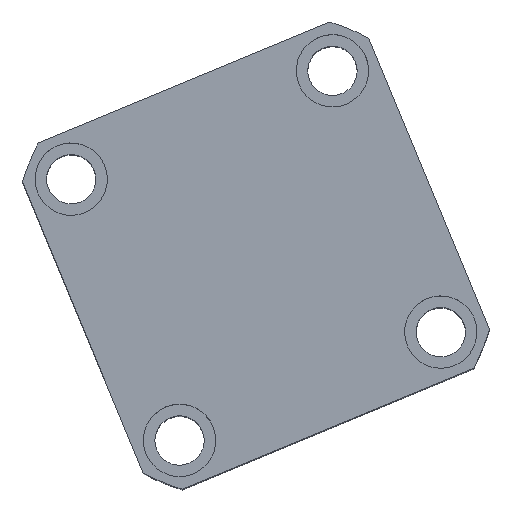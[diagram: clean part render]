
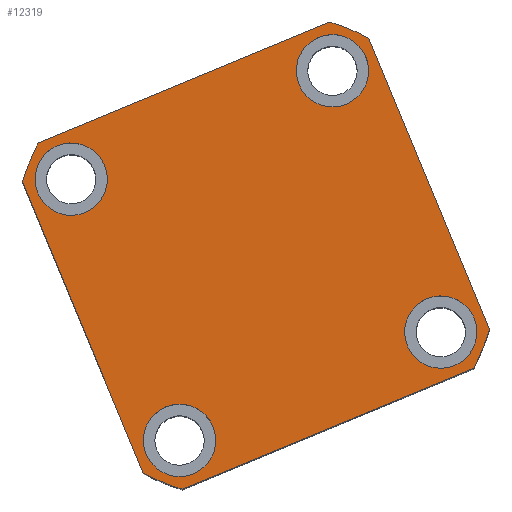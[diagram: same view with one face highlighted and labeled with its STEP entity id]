
A CAD part, top view. The second image highlights one B-rep face of the part: STEP entity #12319.
In plain terms, the highlighted planar face has unit normal (0, 0, 1) as drawn and (0, 0, -1) by its records, which use the part's own axes.
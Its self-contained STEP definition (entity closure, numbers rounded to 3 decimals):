
#3 = EDGE_CURVE ( 'NONE', #1042, #14436, #441, .T. ) ;
#33 = CARTESIAN_POINT ( 'NONE',  ( -32., -43., 0. ) ) ;
#140 = CIRCLE ( 'NONE', #7549, 11. ) ;
#159 = DIRECTION ( 'NONE',  ( -1., 0., 0. ) ) ;
#161 = EDGE_CURVE ( 'NONE', #14602, #7425, #2893, .T. ) ;
#210 = AXIS2_PLACEMENT_3D ( 'NONE', #5428, #13578, #6670 ) ;
#317 = EDGE_LOOP ( 'NONE', ( #13943, #14615, #6559, #4050, #11697, #9347, #13112, #4091 ) ) ;
#441 = CIRCLE ( 'NONE', #10034, 11. ) ;
#1042 = VERTEX_POINT ( 'NONE', #7479 ) ;
#1142 = ORIENTED_EDGE ( 'NONE', *, *, #3185, .F. ) ;
#1170 = CIRCLE ( 'NONE', #10848, 11. ) ;
#1278 = LINE ( 'NONE', #14491, #13803 ) ;
#1538 = CARTESIAN_POINT ( 'NONE',  ( 43., -43., 0. ) ) ;
#1582 = CARTESIAN_POINT ( 'NONE',  ( 32., 43., 0. ) ) ;
#1740 = AXIS2_PLACEMENT_3D ( 'NONE', #13946, #7090, #15040 ) ;
#2227 = LINE ( 'NONE', #14026, #14310 ) ;
#2385 = CARTESIAN_POINT ( 'NONE',  ( 0., 0., 0. ) ) ;
#2472 = DIRECTION ( 'NONE',  ( 0., 0., 1. ) ) ;
#2542 = VERTEX_POINT ( 'NONE', #11944 ) ;
#2661 = CARTESIAN_POINT ( 'NONE',  ( 54., -43., 0. ) ) ;
#2725 = DIRECTION ( 'NONE',  ( -1., 0., 0. ) ) ;
#2737 = AXIS2_PLACEMENT_3D ( 'NONE', #2385, #10719, #3565 ) ;
#2893 = LINE ( 'NONE', #10301, #12361 ) ;
#3016 = DIRECTION ( 'NONE',  ( 0., 0., 1. ) ) ;
#3018 = CIRCLE ( 'NONE', #14252, 11. ) ;
#3185 = EDGE_CURVE ( 'NONE', #12243, #2542, #140, .T. ) ;
#3418 = DIRECTION ( 'NONE',  ( 0., 1., 0. ) ) ;
#3494 = EDGE_CURVE ( 'NONE', #15225, #12830, #14678, .T. ) ;
#3547 = EDGE_LOOP ( 'NONE', ( #12625, #1142 ) ) ;
#3565 = DIRECTION ( 'NONE',  ( 1., 0., 0. ) ) ;
#3759 = CARTESIAN_POINT ( 'NONE',  ( -43., 43., 0. ) ) ;
#3803 = CIRCLE ( 'NONE', #6538, 11. ) ;
#3847 = ORIENTED_EDGE ( 'NONE', *, *, #9641, .F. ) ;
#4050 = ORIENTED_EDGE ( 'NONE', *, *, #161, .F. ) ;
#4067 = VERTEX_POINT ( 'NONE', #9112 ) ;
#4091 = ORIENTED_EDGE ( 'NONE', *, *, #6406, .F. ) ;
#4269 = CARTESIAN_POINT ( 'NONE',  ( -57., -47.971, 0. ) ) ;
#4405 = DIRECTION ( 'NONE',  ( 0., 0., -1. ) ) ;
#4418 = DIRECTION ( 'NONE',  ( 0., 0., -1. ) ) ;
#4809 = CARTESIAN_POINT ( 'NONE',  ( 57., -47.971, 0. ) ) ;
#4846 = CARTESIAN_POINT ( 'NONE',  ( -57., 47.971, 0. ) ) ;
#5014 = DIRECTION ( 'NONE',  ( -1., 0., 0. ) ) ;
#5067 = VERTEX_POINT ( 'NONE', #4809 ) ;
#5402 = EDGE_CURVE ( 'NONE', #11031, #13790, #9551, .T. ) ;
#5417 = AXIS2_PLACEMENT_3D ( 'NONE', #11520, #4418, #12662 ) ;
#5428 = CARTESIAN_POINT ( 'NONE',  ( 0., 0., 0. ) ) ;
#5442 = EDGE_CURVE ( 'NONE', #5067, #4067, #9171, .T. ) ;
#5604 = CARTESIAN_POINT ( 'NONE',  ( 0., 0., 0. ) ) ;
#5722 = CIRCLE ( 'NONE', #12958, 74.5 ) ;
#6011 = EDGE_CURVE ( 'NONE', #12830, #7146, #1278, .T. ) ;
#6341 = CARTESIAN_POINT ( 'NONE',  ( -43., -43., 0. ) ) ;
#6364 = ORIENTED_EDGE ( 'NONE', *, *, #3, .F. ) ;
#6406 = EDGE_CURVE ( 'NONE', #12935, #15225, #2227, .T. ) ;
#6538 = AXIS2_PLACEMENT_3D ( 'NONE', #14286, #7475, #159 ) ;
#6559 = ORIENTED_EDGE ( 'NONE', *, *, #7713, .F. ) ;
#6670 = DIRECTION ( 'NONE',  ( 1., 0., 0. ) ) ;
#6854 = DIRECTION ( 'NONE',  ( 1., 0., 0. ) ) ;
#7090 = DIRECTION ( 'NONE',  ( 0., 0., -1. ) ) ;
#7146 = VERTEX_POINT ( 'NONE', #4269 ) ;
#7306 = FACE_OUTER_BOUND ( 'NONE', #317, .T. ) ;
#7425 = VERTEX_POINT ( 'NONE', #9369 ) ;
#7475 = DIRECTION ( 'NONE',  ( 0., 0., -1. ) ) ;
#7479 = CARTESIAN_POINT ( 'NONE',  ( 32., -43., 0. ) ) ;
#7549 = AXIS2_PLACEMENT_3D ( 'NONE', #3759, #12071, #5014 ) ;
#7574 = DIRECTION ( 'NONE',  ( -1., 0., 0. ) ) ;
#7591 = EDGE_LOOP ( 'NONE', ( #14767, #14439 ) ) ;
#7685 = FACE_BOUND ( 'NONE', #7591, .T. ) ;
#7711 = DIRECTION ( 'NONE',  ( 0., -1., 0. ) ) ;
#7713 = EDGE_CURVE ( 'NONE', #7425, #5067, #5722, .T. ) ;
#7835 = AXIS2_PLACEMENT_3D ( 'NONE', #10182, #3016, #11355 ) ;
#8275 = CARTESIAN_POINT ( 'NONE',  ( 57., 57., 0. ) ) ;
#8732 = EDGE_CURVE ( 'NONE', #9012, #12046, #1170, .T. ) ;
#8799 = CARTESIAN_POINT ( 'NONE',  ( 54., 43., 0. ) ) ;
#9012 = VERTEX_POINT ( 'NONE', #12511 ) ;
#9099 = PLANE ( 'NONE',  #10059 ) ;
#9112 = CARTESIAN_POINT ( 'NONE',  ( 57., 47.971, 0. ) ) ;
#9171 = LINE ( 'NONE', #8275, #15186 ) ;
#9347 = ORIENTED_EDGE ( 'NONE', *, *, #6011, .F. ) ;
#9369 = CARTESIAN_POINT ( 'NONE',  ( 47.971, -57., 0. ) ) ;
#9551 = CIRCLE ( 'NONE', #1740, 11. ) ;
#9641 = EDGE_CURVE ( 'NONE', #14436, #1042, #3018, .T. ) ;
#9646 = CARTESIAN_POINT ( 'NONE',  ( 0., 0., 0. ) ) ;
#9883 = EDGE_CURVE ( 'NONE', #2542, #12243, #11041, .T. ) ;
#9903 = DIRECTION ( 'NONE',  ( 0., 0., -1. ) ) ;
#10034 = AXIS2_PLACEMENT_3D ( 'NONE', #12085, #12321, #11969 ) ;
#10059 = AXIS2_PLACEMENT_3D ( 'NONE', #5604, #13732, #6854 ) ;
#10111 = CARTESIAN_POINT ( 'NONE',  ( -32., 43., 0. ) ) ;
#10182 = CARTESIAN_POINT ( 'NONE',  ( 0., 0., 0. ) ) ;
#10301 = CARTESIAN_POINT ( 'NONE',  ( -57., -57., 0. ) ) ;
#10367 = FACE_BOUND ( 'NONE', #12610, .T. ) ;
#10719 = DIRECTION ( 'NONE',  ( 0., 0., 1. ) ) ;
#10800 = DIRECTION ( 'NONE',  ( 1., 0., 0. ) ) ;
#10848 = AXIS2_PLACEMENT_3D ( 'NONE', #6341, #14375, #7574 ) ;
#10903 = CIRCLE ( 'NONE', #11518, 11. ) ;
#11012 = EDGE_LOOP ( 'NONE', ( #13595, #13298 ) ) ;
#11031 = VERTEX_POINT ( 'NONE', #1582 ) ;
#11041 = CIRCLE ( 'NONE', #5417, 11. ) ;
#11098 = FACE_BOUND ( 'NONE', #11012, .T. ) ;
#11299 = CARTESIAN_POINT ( 'NONE',  ( -47.971, -57., 0. ) ) ;
#11355 = DIRECTION ( 'NONE',  ( 1., 0., 0. ) ) ;
#11510 = CARTESIAN_POINT ( 'NONE',  ( 43., 43., 0. ) ) ;
#11518 = AXIS2_PLACEMENT_3D ( 'NONE', #11510, #4405, #12653 ) ;
#11520 = CARTESIAN_POINT ( 'NONE',  ( -43., 43., 0. ) ) ;
#11566 = DIRECTION ( 'NONE',  ( 1., 0., 0. ) ) ;
#11697 = ORIENTED_EDGE ( 'NONE', *, *, #13547, .F. ) ;
#11836 = DIRECTION ( 'NONE',  ( -1., 0., 0. ) ) ;
#11944 = CARTESIAN_POINT ( 'NONE',  ( -54., 43., 0. ) ) ;
#11969 = DIRECTION ( 'NONE',  ( -1., 0., 0. ) ) ;
#12046 = VERTEX_POINT ( 'NONE', #33 ) ;
#12071 = DIRECTION ( 'NONE',  ( 0., 0., -1. ) ) ;
#12085 = CARTESIAN_POINT ( 'NONE',  ( 43., -43., 0. ) ) ;
#12243 = VERTEX_POINT ( 'NONE', #10111 ) ;
#12319 = ADVANCED_FACE ( 'NONE', ( #7685, #10367, #11098, #13400, #7306 ), #9099, .F. ) ;
#12321 = DIRECTION ( 'NONE',  ( 0., 0., -1. ) ) ;
#12361 = VECTOR ( 'NONE', #11566, 1000. ) ;
#12511 = CARTESIAN_POINT ( 'NONE',  ( -54., -43., 0. ) ) ;
#12610 = EDGE_LOOP ( 'NONE', ( #6364, #3847 ) ) ;
#12625 = ORIENTED_EDGE ( 'NONE', *, *, #9883, .F. ) ;
#12651 = CARTESIAN_POINT ( 'NONE',  ( -47.971, 57., 0. ) ) ;
#12653 = DIRECTION ( 'NONE',  ( -1., 0., 0. ) ) ;
#12662 = DIRECTION ( 'NONE',  ( -1., 0., 0. ) ) ;
#12673 = CIRCLE ( 'NONE', #210, 74.5 ) ;
#12830 = VERTEX_POINT ( 'NONE', #4846 ) ;
#12935 = VERTEX_POINT ( 'NONE', #13189 ) ;
#12958 = AXIS2_PLACEMENT_3D ( 'NONE', #9646, #2472, #10800 ) ;
#13112 = ORIENTED_EDGE ( 'NONE', *, *, #3494, .F. ) ;
#13189 = CARTESIAN_POINT ( 'NONE',  ( 47.971, 57., 0. ) ) ;
#13298 = ORIENTED_EDGE ( 'NONE', *, *, #14045, .F. ) ;
#13400 = FACE_BOUND ( 'NONE', #3547, .T. ) ;
#13547 = EDGE_CURVE ( 'NONE', #7146, #14602, #13730, .T. ) ;
#13578 = DIRECTION ( 'NONE',  ( 0., 0., 1. ) ) ;
#13595 = ORIENTED_EDGE ( 'NONE', *, *, #5402, .F. ) ;
#13730 = CIRCLE ( 'NONE', #2737, 74.5 ) ;
#13732 = DIRECTION ( 'NONE',  ( 0., 0., 1. ) ) ;
#13790 = VERTEX_POINT ( 'NONE', #8799 ) ;
#13803 = VECTOR ( 'NONE', #7711, 1000. ) ;
#13943 = ORIENTED_EDGE ( 'NONE', *, *, #15095, .F. ) ;
#13946 = CARTESIAN_POINT ( 'NONE',  ( 43., 43., 0. ) ) ;
#14026 = CARTESIAN_POINT ( 'NONE',  ( -57., 57., 0. ) ) ;
#14045 = EDGE_CURVE ( 'NONE', #13790, #11031, #10903, .T. ) ;
#14252 = AXIS2_PLACEMENT_3D ( 'NONE', #1538, #9903, #2725 ) ;
#14286 = CARTESIAN_POINT ( 'NONE',  ( -43., -43., 0. ) ) ;
#14310 = VECTOR ( 'NONE', #11836, 1000. ) ;
#14343 = EDGE_CURVE ( 'NONE', #12046, #9012, #3803, .T. ) ;
#14375 = DIRECTION ( 'NONE',  ( 0., 0., -1. ) ) ;
#14436 = VERTEX_POINT ( 'NONE', #2661 ) ;
#14439 = ORIENTED_EDGE ( 'NONE', *, *, #14343, .F. ) ;
#14491 = CARTESIAN_POINT ( 'NONE',  ( -57., 57., 0. ) ) ;
#14602 = VERTEX_POINT ( 'NONE', #11299 ) ;
#14615 = ORIENTED_EDGE ( 'NONE', *, *, #5442, .F. ) ;
#14678 = CIRCLE ( 'NONE', #7835, 74.5 ) ;
#14767 = ORIENTED_EDGE ( 'NONE', *, *, #8732, .F. ) ;
#15040 = DIRECTION ( 'NONE',  ( -1., 0., 0. ) ) ;
#15095 = EDGE_CURVE ( 'NONE', #4067, #12935, #12673, .T. ) ;
#15186 = VECTOR ( 'NONE', #3418, 1000. ) ;
#15225 = VERTEX_POINT ( 'NONE', #12651 ) ;
